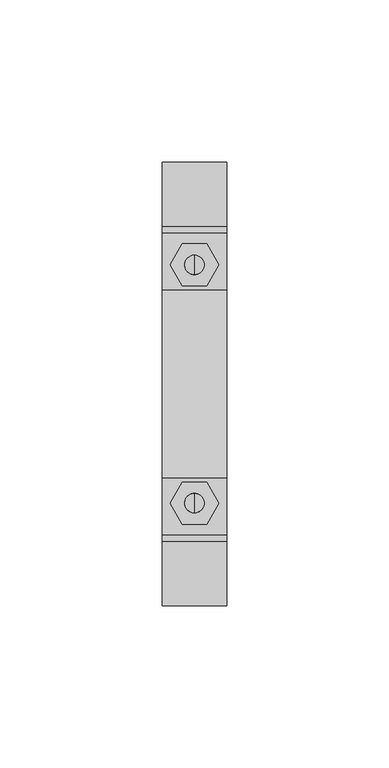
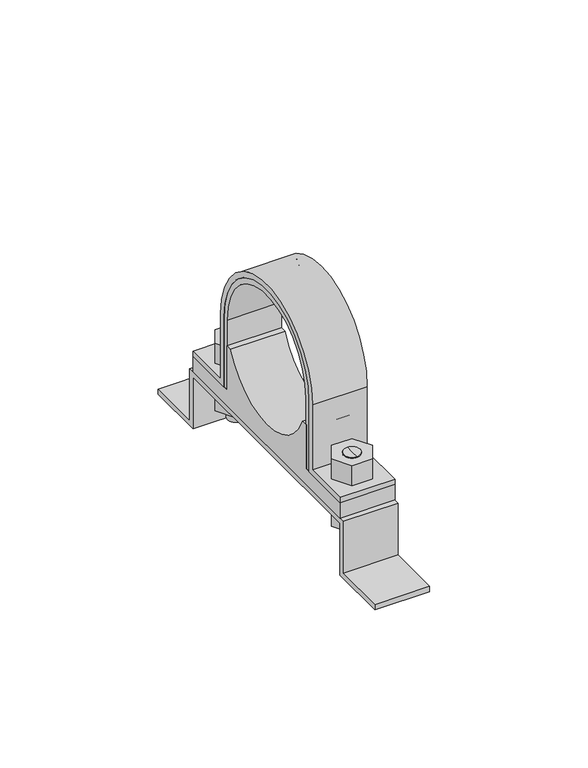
"""IFC4 building model written with IfcOpenShell, lengths in millimetres: valve geometry, Superfix DG3 Clamp (based on pipe) : Superfix DG3 Clamp (based on pipe)."""

from ifc_helpers import new_model, si_unit, point, frame, frame_2d, origin, place, context, project, spatial, polyline, circle_curve, trimmed, segment, composite_curve, outline, extrude, source, transform, mapped, element, save
from ifc_brep_helpers import plane_surface, cylinder_surface, advanced_brep


def valve_329ff7bd(model_context):
    return source(origin(), model_context, "Body", "SolidModel", [
        advanced_brep(
        [(0.0, 39.75, 7.0), (0.0, 33.75, 7.0), (0.0, 33.75, 20.0), (0.0, 39.75, 20.0), (0.0, 36.75, 7.0)],
        [
            (0, 1, circle_curve(frame((0.0, 36.75, 7.0), z_axis=(0.0, 0.0, 1.0), x_axis=(0.0, 1.0, 0.0)), 3.0)),
            (1, 2),
            (2, 3, circle_curve(frame((0.0, 36.75, 20.0), z_axis=(0.0, 0.0, -1.0), x_axis=(0.0, 1.0, 0.0)), 3.0)),
            (3, 0),
            (1, 0, circle_curve(frame((0.0, 36.75, 7.0), z_axis=(0.0, 0.0, 1.0), x_axis=(0.0, 1.0, 0.0)), 3.0)),
            (3, 2, circle_curve(frame((0.0, 36.75, 20.0), z_axis=(0.0, 0.0, -1.0), x_axis=(0.0, 1.0, 0.0)), 3.0)),
            (0, 4),
            (4, 1),
        ],
        [
            cylinder_surface(frame((0.0, 36.75, 53.2806094), z_axis=(0.0, 0.0, 1.0), x_axis=(0.0, 1.0, 0.0)), 3.0),
            plane_surface(frame((0.0, 36.75, 7.0), z_axis=(0.0, 0.0, -1.0), x_axis=(0.0, 1.0, 0.0))),
            plane_surface(frame((13.75, -46.5, 20.0), z_axis=(0.0, 0.0, 1.0), x_axis=(-1.0, 0.0, 0.0))),
        ],
        [
            (0, [[1, 2, 3, 4]]),
            (0, [[5, -4, 6, -2]]),
            (1, [[-1, 7, 8]]),
            (1, [[-5, -8, -7]]),
            (2, [[-3, -6]]),
        ],
    ),
        advanced_brep(
        [(0.0, 33.75, 38.0), (0.0, 39.75, 38.0), (0.0, 39.75, 28.0), (0.0, 33.75, 28.0), (0.0, 36.75, 38.0)],
        [
            (0, 1, circle_curve(frame((0.0, 36.75, 38.0), z_axis=(0.0, 0.0, -1.0), x_axis=(0.0, 1.0, 0.0)), 3.0)),
            (1, 2),
            (2, 3, circle_curve(frame((0.0, 36.75, 28.0), z_axis=(0.0, 0.0, 1.0), x_axis=(0.0, 1.0, 0.0)), 3.0)),
            (3, 0),
            (1, 0, circle_curve(frame((0.0, 36.75, 38.0), z_axis=(0.0, 0.0, -1.0), x_axis=(0.0, 1.0, 0.0)), 3.0)),
            (3, 2, circle_curve(frame((0.0, 36.75, 28.0), z_axis=(0.0, 0.0, 1.0), x_axis=(0.0, 1.0, 0.0)), 3.0)),
            (0, 4),
            (4, 1),
        ],
        [
            cylinder_surface(frame((0.0, 36.75, 53.2806094), z_axis=(0.0, 0.0, 1.0), x_axis=(0.0, 1.0, 0.0)), 3.0),
            plane_surface(frame((0.0, 36.75, 38.0), z_axis=(0.0, 0.0, 1.0), x_axis=(0.0, 1.0, 0.0))),
            plane_surface(frame((13.75, 46.5, 28.0), z_axis=(0.0, 0.0, -1.0), x_axis=(-1.0, 0.0, 0.0))),
        ],
        [
            (0, [[1, 2, 3, 4]]),
            (0, [[5, -4, 6, -2]]),
            (1, [[-1, 7, 8]]),
            (1, [[-5, -8, -7]]),
            (2, [[-3, -6]]),
        ],
    ),
        advanced_brep(
        [(0.0, -39.75, 38.0), (0.0, -33.75, 38.0), (0.0, -33.75, 28.0), (0.0, -39.75, 28.0), (0.0, -36.75, 38.0)],
        [
            (0, 1, circle_curve(frame((0.0, -36.75, 38.0), z_axis=(0.0, 0.0, -1.0), x_axis=(0.0, -1.0, 0.0)), 3.0)),
            (1, 2),
            (2, 3, circle_curve(frame((0.0, -36.75, 28.0), z_axis=(0.0, 0.0, 1.0), x_axis=(0.0, -1.0, 0.0)), 3.0)),
            (3, 0),
            (1, 0, circle_curve(frame((0.0, -36.75, 38.0), z_axis=(0.0, 0.0, -1.0), x_axis=(0.0, -1.0, 0.0)), 3.0)),
            (3, 2, circle_curve(frame((0.0, -36.75, 28.0), z_axis=(0.0, 0.0, 1.0), x_axis=(0.0, -1.0, 0.0)), 3.0)),
            (0, 4),
            (4, 1),
        ],
        [
            cylinder_surface(frame((0.0, -36.75, 53.2806094), z_axis=(0.0, 0.0, -1.0), x_axis=(0.0, -1.0, 0.0)), 3.0),
            plane_surface(frame((0.0, -36.75, 38.0), z_axis=(0.0, 0.0, 1.0), x_axis=(0.0, -1.0, 0.0))),
            plane_surface(frame((13.75, 46.5, 28.0), z_axis=(0.0, 0.0, -1.0), x_axis=(-1.0, 0.0, 0.0))),
        ],
        [
            (0, [[1, 2, 3, 4]]),
            (0, [[5, -4, 6, -2]]),
            (1, [[-1, 7, 8]]),
            (1, [[-5, -8, -7]]),
            (2, [[-3, -6]]),
        ],
    ),
        advanced_brep(
        [(0.0, -33.75, 7.0), (0.0, -39.75, 7.0), (0.0, -39.75, 20.0), (0.0, -33.75, 20.0), (0.0, -36.75, 7.0)],
        [
            (0, 1, circle_curve(frame((0.0, -36.75, 7.0), z_axis=(0.0, 0.0, 1.0), x_axis=(0.0, -1.0, 0.0)), 3.0)),
            (1, 2),
            (2, 3, circle_curve(frame((0.0, -36.75, 20.0), z_axis=(0.0, 0.0, -1.0), x_axis=(0.0, -1.0, 0.0)), 3.0)),
            (3, 0),
            (1, 0, circle_curve(frame((0.0, -36.75, 7.0), z_axis=(0.0, 0.0, 1.0), x_axis=(0.0, -1.0, 0.0)), 3.0)),
            (3, 2, circle_curve(frame((0.0, -36.75, 20.0), z_axis=(0.0, 0.0, -1.0), x_axis=(0.0, -1.0, 0.0)), 3.0)),
            (0, 4),
            (4, 1),
        ],
        [
            cylinder_surface(frame((0.0, -36.75, 53.2806094), z_axis=(0.0, 0.0, -1.0), x_axis=(0.0, -1.0, 0.0)), 3.0),
            plane_surface(frame((0.0, -36.75, 7.0), z_axis=(0.0, 0.0, -1.0), x_axis=(0.0, -1.0, 0.0))),
            plane_surface(frame((13.75, -46.5, 20.0), z_axis=(0.0, 0.0, 1.0), x_axis=(-1.0, 0.0, 0.0))),
        ],
        [
            (0, [[1, 2, 3, 4]]),
            (0, [[5, -4, 6, -2]]),
            (1, [[-1, 7, 8]]),
            (1, [[-5, -8, -7]]),
            (2, [[-3, -6]]),
        ],
    ),
        extrude(outline(composite_curve([segment(trimmed(circle_curve(frame_2d((0.0, 55.0)), 27.0), [point((27.0, 55.0))], [point((-27.0, 55.0))], True, "CARTESIAN"), True, "CONTINUOUS"), segment(polyline([(-27.0, 55.0), (-27.0, 28.0), (-46.5, 28.0), (-46.5, 30.0), (-29.0, 30.0), (-29.0, 55.0)]), True, "CONTINUOUS"), segment(trimmed(circle_curve(frame_2d((0.0, 55.0)), 29.0), [point((-29.0, 55.0))], [point((29.0, 55.0))], False, "CARTESIAN"), True, "CONTINUOUS"), segment(polyline([(29.0, 55.0), (29.0, 30.0), (46.5, 30.0), (46.5, 28.0), (27.0, 28.0), (27.0, 55.0)]), True, "CONTINUOUS")], self_intersect=False)), frame((-10.0, 0.0, 0.0), z_axis=(1.0, 0.0, 0.0), x_axis=(0.0, 1.0, 0.0)), (0.0, 0.0, 1.0), 20.0),
        extrude(outline(polyline([(7.5055535, -36.75), (3.7527767, -43.25), (-3.7527767, -43.25), (-7.5055535, -36.75), (-3.7527767, -30.25), (3.7527767, -30.25), (7.5055535, -36.75)]), holes=[composite_curve([segment(trimmed(circle_curve(frame_2d((0.0, -36.75)), 3.0), [point((3.0, -36.75))], [point((-3.0, -36.75))], True, "CARTESIAN"), True, "CONTINUOUS"), segment(trimmed(circle_curve(frame_2d((0.0, -36.75)), 3.0), [point((-3.0, -36.75))], [point((3.0, -36.75))], True, "CARTESIAN"), True, "CONTINUOUS")], self_intersect=False)]), frame((0.0, 0.0, 30.0), z_axis=(0.0, 0.0, 1.0), x_axis=(1.0, 0.0, 0.0)), (0.0, 0.0, 1.0), 8.0),
        extrude(outline(polyline([(7.5055535, 36.75), (3.7527767, 30.25), (-3.7527767, 30.25), (-7.5055535, 36.75), (-3.7527767, 43.25), (3.7527767, 43.25), (7.5055535, 36.75)]), holes=[composite_curve([segment(trimmed(circle_curve(frame_2d((0.0, 36.75)), 3.0), [point((3.0, 36.75))], [point((-3.0, 36.75))], True, "CARTESIAN"), True, "CONTINUOUS"), segment(trimmed(circle_curve(frame_2d((0.0, 36.75)), 3.0), [point((-3.0, 36.75))], [point((3.0, 36.75))], True, "CARTESIAN"), True, "CONTINUOUS")], self_intersect=False)]), frame((0.0, 0.0, 30.0), z_axis=(0.0, 0.0, 1.0), x_axis=(1.0, 0.0, 0.0)), (0.0, 0.0, 1.0), 8.0),
        extrude(outline(polyline([(7.5055535, -36.75), (3.7527767, -43.25), (-3.7527767, -43.25), (-7.5055535, -36.75), (-3.7527767, -30.25), (3.7527767, -30.25), (7.5055535, -36.75)]), holes=[composite_curve([segment(trimmed(circle_curve(frame_2d((0.0, -36.75)), 3.0), [point((3.0, -36.75))], [point((-3.0, -36.75))], True, "CARTESIAN"), True, "CONTINUOUS"), segment(trimmed(circle_curve(frame_2d((0.0, -36.75)), 3.0), [point((-3.0, -36.75))], [point((3.0, -36.75))], True, "CARTESIAN"), True, "CONTINUOUS")], self_intersect=False)]), frame((0.0, 0.0, 12.0), z_axis=(0.0, 0.0, 1.0), x_axis=(1.0, 0.0, 0.0)), (0.0, 0.0, 1.0), 8.0),
        extrude(outline(polyline([(7.5055535, 36.75), (3.7527767, 30.25), (-3.7527767, 30.25), (-7.5055535, 36.75), (-3.7527767, 43.25), (3.7527767, 43.25), (7.5055535, 36.75)]), holes=[composite_curve([segment(trimmed(circle_curve(frame_2d((0.0, 36.75)), 3.0), [point((3.0, 36.75))], [point((-3.0, 36.75))], True, "CARTESIAN"), True, "CONTINUOUS"), segment(trimmed(circle_curve(frame_2d((0.0, 36.75)), 3.0), [point((-3.0, 36.75))], [point((3.0, 36.75))], True, "CARTESIAN"), True, "CONTINUOUS")], self_intersect=False)]), frame((0.0, 0.0, 12.0), z_axis=(0.0, 0.0, 1.0), x_axis=(1.0, 0.0, 0.0)), (0.0, 0.0, 1.0), 8.0),
        extrude(outline(composite_curve([segment(polyline([(-46.5, 22.0), (-46.5, 28.0), (-25.0, 28.0), (-25.0, 45.0), (-22.9128785, 45.0)]), True, "CONTINUOUS"), segment(trimmed(circle_curve(frame_2d((0.0, 55.0)), 25.0), [point((-22.9128785, 45.0))], [point((22.9128785, 45.0))], True, "CARTESIAN"), True, "CONTINUOUS"), segment(polyline([(22.9128785, 45.0), (25.0, 45.0), (25.0, 28.0), (46.5, 28.0), (46.5, 22.0), (-46.5, 22.0)]), True, "CONTINUOUS")], self_intersect=False)), frame((-10.0, 0.0, 0.0), z_axis=(1.0, 0.0, 0.0), x_axis=(0.0, 1.0, 0.0)), (0.0, 0.0, 1.0), 20.0),
        extrude(outline(polyline([(-68.5, 2.0), (-48.5, 2.0), (-48.5, 22.0), (0.0, 22.0), (48.5, 22.0), (48.5, 2.0), (68.5, 2.0), (68.5, 0.0), (46.5, 0.0), (46.5, 20.0), (0.0, 20.0), (-46.5, 20.0), (-46.5, 0.0), (-68.5, 0.0), (-68.5, 2.0)])), frame((-10.0, 0.0, 0.0), z_axis=(1.0, 0.0, 0.0), x_axis=(0.0, 1.0, 0.0)), (0.0, 0.0, 1.0), 20.0),
        extrude(outline(composite_curve([segment(trimmed(circle_curve(frame_2d((0.0, 55.0)), 25.0), [point((25.0, 55.0))], [point((-25.0, 55.0))], True, "CARTESIAN"), True, "CONTINUOUS"), segment(polyline([(-25.0, 55.0), (-25.0, 28.0), (-27.0, 28.0), (-27.0, 55.0)]), True, "CONTINUOUS"), segment(trimmed(circle_curve(frame_2d((0.0, 55.0)), 27.0), [point((-27.0, 55.0))], [point((27.0, 55.0))], False, "CARTESIAN"), True, "CONTINUOUS"), segment(polyline([(27.0, 55.0), (27.0, 28.0), (25.0, 28.0), (25.0, 55.0)]), True, "CONTINUOUS")], self_intersect=False)), frame((-10.0, 0.0, 0.0), z_axis=(1.0, 0.0, 0.0), x_axis=(0.0, 1.0, 0.0)), (0.0, 0.0, 1.0), 20.0),
    ])


if __name__ == "__main__":
    model = new_model("IFC4")
    model_context = context("Model", 3, world=origin())
    ifc_project = project(units=[si_unit("LENGTHUNIT", "METRE", prefix="MILLI")], contexts=[model_context])
    site = spatial("IfcSite", under=ifc_project)
    building = spatial("IfcBuilding", under=site)
    placement = place(None, origin())
    valve_shape = valve_329ff7bd(model_context)
    element("IfcValve", 1, ObjectType="Superfix DG3 Clamp (based on pipe) : Superfix DG3 Clamp (based on pipe)", at=placement, inside=building, context=model_context, shape_type="MappedRepresentation", body=[
        mapped(valve_shape, transform((0.0, 0.0, 0.0), x_axis=(1.0, 0.0, 0.0), y_axis=(0.0, 1.0, 0.0), z_axis=(0.0, 0.0, 1.0))),
    ])
    save(model, "model.ifc")
